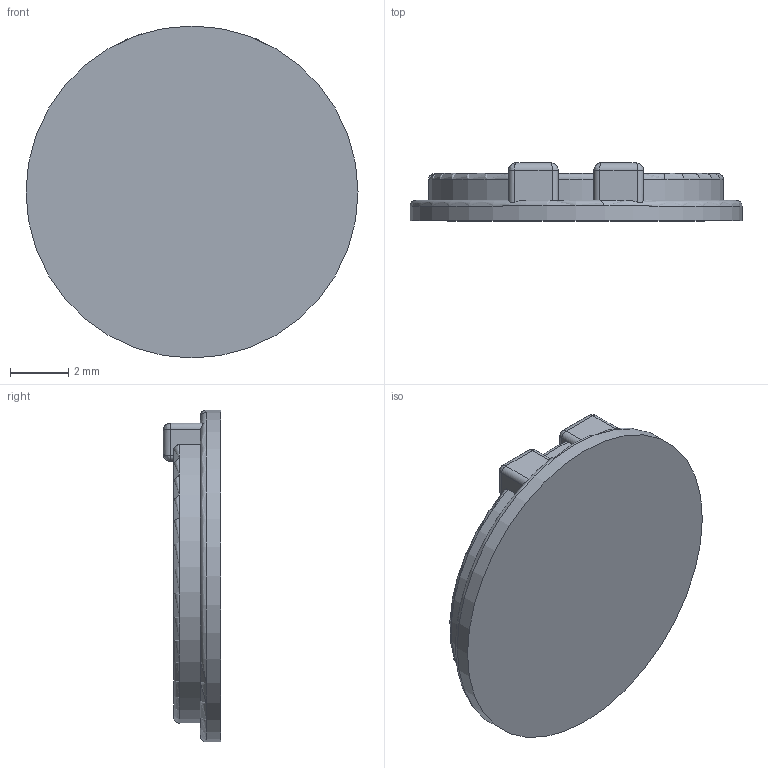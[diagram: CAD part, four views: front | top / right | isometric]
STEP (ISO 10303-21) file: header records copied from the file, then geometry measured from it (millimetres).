
FILE_DESCRIPTION(/* description */ ('','CAx-IF Rec.Pracs.---Representation and Presentation of Product Manufacturing Information (PMI)---4.0---2014-10-13'),/* implementation_level */ '2;1');
FILE_NAME(/* name */ '20thhuckinsexhaustport.step',/* time_stamp */ '2025-03-21T21:39:47+11:00',/* author */ (''),/* organization */ (''),/* preprocessor_version */ 'ST-DEVELOPER v20',/* originating_system */ 'Autodesk Translation Framework v13.20.0.188',/* authorisation */ '');
FILE_SCHEMA (('AP242_MANAGED_MODEL_BASED_3D_ENGINEERING_MIM_LF { 1 0 10303 442 1 1 4 }'));
Length unit declared in the file: millimetre
Products named in the file (1): HuckinsDeckParts
Bounding box: 11.43 x 1.98 x 11.43 mm (x, y, z)
Volume: 149 mm3; surface area: 258.4 mm2
Topology: 1 solids, 1 shells, 44 faces, 110 edges, 60 vertices
Faces by surface type: cylinder 19, plane 14, bspline 8, torus 3
Full cylindrical faces by diameter (mm): 11.426 x1
Entity records: 1687 total; most frequent: CARTESIAN_POINT 709, ORIENTED_EDGE 204, DIRECTION 177, EDGE_CURVE 102, AXIS2_PLACEMENT_3D 64, VERTEX_POINT 60, LINE 49, VECTOR 49
